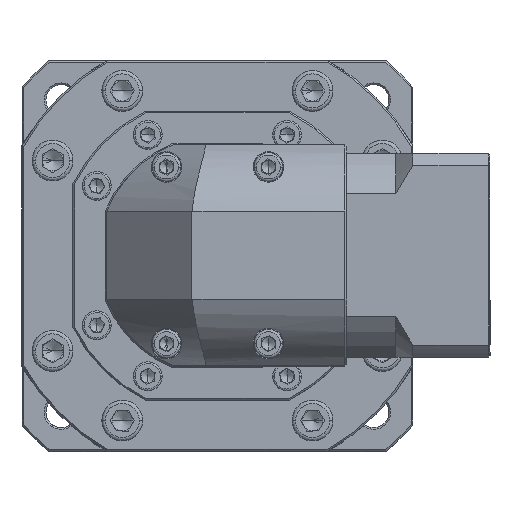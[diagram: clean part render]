
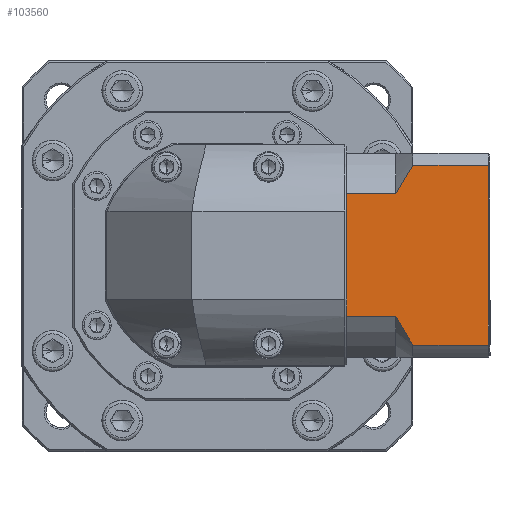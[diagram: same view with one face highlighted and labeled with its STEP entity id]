
A CAD part, top view. The second image highlights one B-rep face of the part: STEP entity #103560.
In plain terms, the highlighted planar face has unit normal (0, 0, 1).
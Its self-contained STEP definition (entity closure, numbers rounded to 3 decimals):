
#3510 = EDGE_CURVE ( 'NONE', #75802, #133587, #99352, .T. ) ;
#8600 = EDGE_CURVE ( 'NONE', #17538, #147381, #121782, .T. ) ;
#9652 = ORIENTED_EDGE ( 'NONE', *, *, #139301, .F. ) ;
#9665 = EDGE_CURVE ( 'NONE', #97901, #115043, #137539, .T. ) ;
#9951 = CARTESIAN_POINT ( 'NONE',  ( 106.289, 51.5, -2.166 ) ) ;
#12524 = VERTEX_POINT ( 'NONE', #137762 ) ;
#12951 = EDGE_LOOP ( 'NONE', ( #134081, #93040, #90828, #102211, #9652, #99884, #65747, #15917, #96888, #61626 ) ) ;
#13032 = VECTOR ( 'NONE', #112390, 1000. ) ;
#14414 = VECTOR ( 'NONE', #132727, 1000. ) ;
#15917 = ORIENTED_EDGE ( 'NONE', *, *, #117599, .T. ) ;
#16118 = VECTOR ( 'NONE', #101482, 1000. ) ;
#17509 = EDGE_CURVE ( 'NONE', #12524, #97901, #30939, .T. ) ;
#17538 = VERTEX_POINT ( 'NONE', #123863 ) ;
#18669 = B_SPLINE_CURVE_WITH_KNOTS ( 'NONE', 3,
 ( #79268, #22400, #102225, #33856, #122729, #100288 ),
 .UNSPECIFIED., .F., .F.,
 ( 4, 2, 4 ),
 ( 0.052, 0.057, 0.062 ),
 .UNSPECIFIED. ) ;
#20605 = DIRECTION ( 'NONE',  ( -1., 0., 0. ) ) ;
#22057 = CARTESIAN_POINT ( 'NONE',  ( 104.738, 90.437, -2.166 ) ) ;
#22400 = CARTESIAN_POINT ( 'NONE',  ( 108.839, 97.507, -2.166 ) ) ;
#26063 = CARTESIAN_POINT ( 'NONE',  ( 104.738, 54.382, -2.166 ) ) ;
#28519 = EDGE_CURVE ( 'NONE', #17538, #102989, #18669, .T. ) ;
#30939 = LINE ( 'NONE', #143862, #13032 ) ;
#33856 = CARTESIAN_POINT ( 'NONE',  ( 106.29, 93.321, -2.166 ) ) ;
#37614 = DIRECTION ( 'NONE',  ( 0., 0., -1. ) ) ;
#42403 = CARTESIAN_POINT ( 'NONE',  ( 90.238, 54.382, -2.166 ) ) ;
#44799 = CARTESIAN_POINT ( 'NONE',  ( 108.837, 47.315, -2.166 ) ) ;
#45326 = B_SPLINE_CURVE_WITH_KNOTS ( 'NONE', 3,
 ( #146671, #78263, #9951, #67314, #44799, #122720 ),
 .UNSPECIFIED., .F., .F.,
 ( 4, 2, 4 ),
 ( 0.1, 0.104, 0.109 ),
 .UNSPECIFIED. ) ;
#46566 = PLANE ( 'NONE',  #126897 ) ;
#47492 = CARTESIAN_POINT ( 'NONE',  ( 90.238, 102.409, -2.166 ) ) ;
#49108 = CARTESIAN_POINT ( 'NONE',  ( 132.438, 102.409, -2.166 ) ) ;
#49310 = VECTOR ( 'NONE', #20605, 1000. ) ;
#55615 = VECTOR ( 'NONE', #66866, 1000. ) ;
#57189 = LINE ( 'NONE', #122240, #14414 ) ;
#57262 = CARTESIAN_POINT ( 'NONE',  ( 131.938, 98.867, -2.166 ) ) ;
#61626 = ORIENTED_EDGE ( 'NONE', *, *, #88123, .T. ) ;
#62142 = LINE ( 'NONE', #47492, #128132 ) ;
#62583 = DIRECTION ( 'NONE',  ( 1., 0., 0. ) ) ;
#64313 = EDGE_CURVE ( 'NONE', #94251, #147381, #100916, .T. ) ;
#65235 = VECTOR ( 'NONE', #123686, 1000. ) ;
#65747 = ORIENTED_EDGE ( 'NONE', *, *, #9665, .T. ) ;
#66534 = VECTOR ( 'NONE', #112869, 1000. ) ;
#66866 = DIRECTION ( 'NONE',  ( 1., 0., 0. ) ) ;
#67314 = CARTESIAN_POINT ( 'NONE',  ( 107.963, 48.694, -2.166 ) ) ;
#75802 = VERTEX_POINT ( 'NONE', #26063 ) ;
#77770 = CARTESIAN_POINT ( 'NONE',  ( 131.938, 102.409, -2.166 ) ) ;
#78263 = CARTESIAN_POINT ( 'NONE',  ( 105.488, 52.925, -2.166 ) ) ;
#79268 = CARTESIAN_POINT ( 'NONE',  ( 109.738, 98.867, -2.166 ) ) ;
#80817 = LINE ( 'NONE', #22057, #66534 ) ;
#81456 = CARTESIAN_POINT ( 'NONE',  ( 109.738, 45.952, -2.166 ) ) ;
#88123 = EDGE_CURVE ( 'NONE', #75802, #126474, #45326, .T. ) ;
#89963 = CARTESIAN_POINT ( 'NONE',  ( 104.738, 54.382, -2.166 ) ) ;
#90828 = ORIENTED_EDGE ( 'NONE', *, *, #8600, .F. ) ;
#91526 = CARTESIAN_POINT ( 'NONE',  ( 90.238, 89.446, -2.166 ) ) ;
#92439 = CARTESIAN_POINT ( 'NONE',  ( 131.938, 45.952, -2.166 ) ) ;
#93040 = ORIENTED_EDGE ( 'NONE', *, *, #64313, .T. ) ;
#94251 = VERTEX_POINT ( 'NONE', #92439 ) ;
#96888 = ORIENTED_EDGE ( 'NONE', *, *, #3510, .F. ) ;
#97901 = VERTEX_POINT ( 'NONE', #91526 ) ;
#99352 = LINE ( 'NONE', #89963, #49310 ) ;
#99884 = ORIENTED_EDGE ( 'NONE', *, *, #17509, .T. ) ;
#100288 = CARTESIAN_POINT ( 'NONE',  ( 104.738, 90.437, -2.166 ) ) ;
#100916 = LINE ( 'NONE', #77770, #65235 ) ;
#101482 = DIRECTION ( 'NONE',  ( 0., -1., 0. ) ) ;
#102211 = ORIENTED_EDGE ( 'NONE', *, *, #28519, .T. ) ;
#102225 = CARTESIAN_POINT ( 'NONE',  ( 107.965, 96.128, -2.166 ) ) ;
#102989 = VERTEX_POINT ( 'NONE', #125485 ) ;
#103560 = ADVANCED_FACE ( 'NONE', ( #108154 ), #46566, .F. ) ;
#108154 = FACE_OUTER_BOUND ( 'NONE', #12951, .T. ) ;
#112390 = DIRECTION ( 'NONE',  ( 0., -1., 0. ) ) ;
#112869 = DIRECTION ( 'NONE',  ( 1., 0., 0. ) ) ;
#115043 = VERTEX_POINT ( 'NONE', #120577 ) ;
#117599 = EDGE_CURVE ( 'NONE', #115043, #133587, #62142, .T. ) ;
#120577 = CARTESIAN_POINT ( 'NONE',  ( 90.238, 55.373, -2.166 ) ) ;
#121782 = LINE ( 'NONE', #123725, #55615 ) ;
#121783 = EDGE_CURVE ( 'NONE', #94251, #126474, #57189, .T. ) ;
#122240 = CARTESIAN_POINT ( 'NONE',  ( 104.738, 45.952, -2.166 ) ) ;
#122720 = CARTESIAN_POINT ( 'NONE',  ( 109.738, 45.952, -2.166 ) ) ;
#122729 = CARTESIAN_POINT ( 'NONE',  ( 105.486, 91.889, -2.166 ) ) ;
#123686 = DIRECTION ( 'NONE',  ( 0., 1., 0. ) ) ;
#123725 = CARTESIAN_POINT ( 'NONE',  ( 104.738, 98.867, -2.166 ) ) ;
#123863 = CARTESIAN_POINT ( 'NONE',  ( 109.738, 98.867, -2.166 ) ) ;
#125485 = CARTESIAN_POINT ( 'NONE',  ( 104.738, 90.437, -2.166 ) ) ;
#126474 = VERTEX_POINT ( 'NONE', #81456 ) ;
#126897 = AXIS2_PLACEMENT_3D ( 'NONE', #49108, #37614, #62583 ) ;
#128132 = VECTOR ( 'NONE', #138866, 1000. ) ;
#132727 = DIRECTION ( 'NONE',  ( -1., 0., 0. ) ) ;
#133587 = VERTEX_POINT ( 'NONE', #42403 ) ;
#134081 = ORIENTED_EDGE ( 'NONE', *, *, #121783, .F. ) ;
#135877 = CARTESIAN_POINT ( 'NONE',  ( 90.238, 102.409, -2.166 ) ) ;
#137539 = LINE ( 'NONE', #135877, #16118 ) ;
#137762 = CARTESIAN_POINT ( 'NONE',  ( 90.238, 90.437, -2.166 ) ) ;
#138866 = DIRECTION ( 'NONE',  ( 0., -1., 0. ) ) ;
#139301 = EDGE_CURVE ( 'NONE', #12524, #102989, #80817, .T. ) ;
#143862 = CARTESIAN_POINT ( 'NONE',  ( 90.238, 102.409, -2.166 ) ) ;
#146671 = CARTESIAN_POINT ( 'NONE',  ( 104.738, 54.382, -2.166 ) ) ;
#147381 = VERTEX_POINT ( 'NONE', #57262 ) ;
